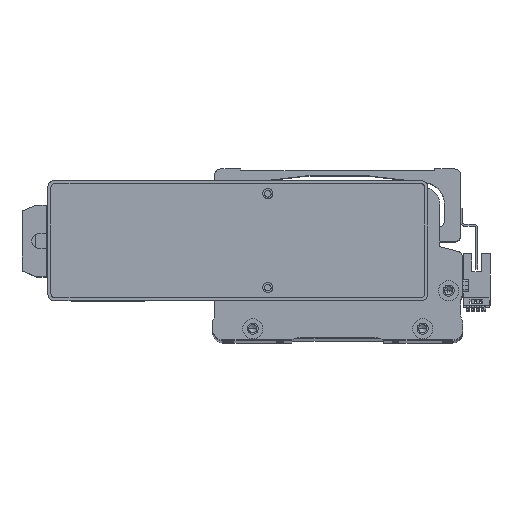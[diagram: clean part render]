
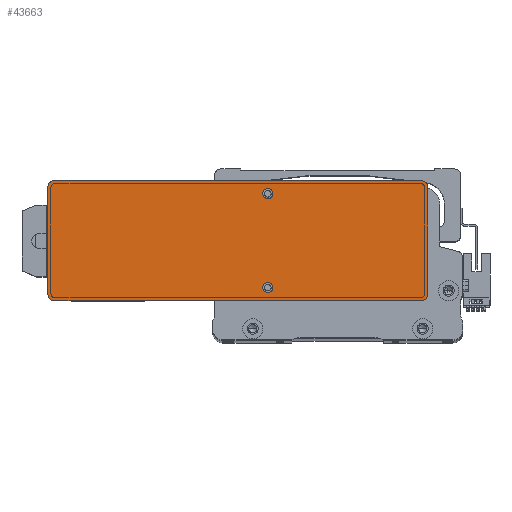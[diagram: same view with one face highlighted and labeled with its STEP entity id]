
A CAD part, top view. The second image highlights one B-rep face of the part: STEP entity #43663.
In plain terms, the highlighted planar face has unit normal (0, 0, 1) as drawn and (0, 0, -1) by its records, which use the part's own axes.
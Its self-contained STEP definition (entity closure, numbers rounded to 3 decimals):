
#1423 = DIRECTION ( 'NONE',  ( 0., 0., 1. ) ) ;
#1839 = DIRECTION ( 'NONE',  ( 0., 0., -1. ) ) ;
#4832 = CARTESIAN_POINT ( 'NONE',  ( -15., -23.5, 0. ) ) ;
#4980 = EDGE_CURVE ( 'NONE', #57262, #43032, #63337, .T. ) ;
#6400 = AXIS2_PLACEMENT_3D ( 'NONE', #38550, #1839, #44687 ) ;
#6965 = AXIS2_PLACEMENT_3D ( 'NONE', #31980, #1423, #44291 ) ;
#7436 = CARTESIAN_POINT ( 'NONE',  ( 92., 27., 0. ) ) ;
#8709 = DIRECTION ( 'NONE',  ( 0., 0., -1. ) ) ;
#8949 = CIRCLE ( 'NONE', #6400, 2.5 ) ;
#8986 = EDGE_LOOP ( 'NONE', ( #48792, #58859 ) ) ;
#9885 = ORIENTED_EDGE ( 'NONE', *, *, #28539, .F. ) ;
#11009 = DIRECTION ( 'NONE',  ( -1., 0., 0. ) ) ;
#11874 = ORIENTED_EDGE ( 'NONE', *, *, #66200, .F. ) ;
#12229 = DIRECTION ( 'NONE',  ( 0., 0., -1. ) ) ;
#12276 = CARTESIAN_POINT ( 'NONE',  ( -12.5, 23.5, 0. ) ) ;
#13154 = VERTEX_POINT ( 'NONE', #41703 ) ;
#13635 = DIRECTION ( 'NONE',  ( 1., 0., 0. ) ) ;
#14962 = EDGE_CURVE ( 'NONE', #50906, #72676, #8949, .T. ) ;
#16763 = VECTOR ( 'NONE', #60028, 1000. ) ;
#17820 = CARTESIAN_POINT ( 'NONE',  ( -95., -30., 0. ) ) ;
#19746 = CARTESIAN_POINT ( 'NONE',  ( 92., -27., 0. ) ) ;
#20493 = CARTESIAN_POINT ( 'NONE',  ( -17.5, -23.5, 0. ) ) ;
#20923 = CARTESIAN_POINT ( 'NONE',  ( -92., -27., 0. ) ) ;
#21642 = FACE_BOUND ( 'NONE', #23380, .T. ) ;
#22572 = CARTESIAN_POINT ( 'NONE',  ( -15., 23.5, 0. ) ) ;
#23195 = ORIENTED_EDGE ( 'NONE', *, *, #4980, .T. ) ;
#23380 = EDGE_LOOP ( 'NONE', ( #77000, #9885 ) ) ;
#23465 = CARTESIAN_POINT ( 'NONE',  ( 95., -30., 0. ) ) ;
#24868 = CARTESIAN_POINT ( 'NONE',  ( -95., -27., 0. ) ) ;
#25918 = DIRECTION ( 'NONE',  ( 1., 0., 0. ) ) ;
#25922 = CARTESIAN_POINT ( 'NONE',  ( -92., -30., 0. ) ) ;
#26672 = DIRECTION ( 'NONE',  ( -1., 0., 0. ) ) ;
#26843 = CARTESIAN_POINT ( 'NONE',  ( 95., -30., 0. ) ) ;
#27047 = DIRECTION ( 'NONE',  ( 1., 0., 0. ) ) ;
#28539 = EDGE_CURVE ( 'NONE', #76569, #30718, #77355, .T. ) ;
#28711 = CARTESIAN_POINT ( 'NONE',  ( 95., -27., 0. ) ) ;
#28735 = DIRECTION ( 'NONE',  ( -1., 0., 0. ) ) ;
#29896 = ORIENTED_EDGE ( 'NONE', *, *, #37116, .F. ) ;
#30135 = EDGE_LOOP ( 'NONE', ( #29896, #58878, #11874, #44480, #56556, #23195, #63937, #74729 ) ) ;
#30718 = VERTEX_POINT ( 'NONE', #57088 ) ;
#31966 = CIRCLE ( 'NONE', #62013, 2.5 ) ;
#31980 = CARTESIAN_POINT ( 'NONE',  ( 0., 0., 0. ) ) ;
#33518 = CIRCLE ( 'NONE', #40277, 2.5 ) ;
#34972 = LINE ( 'NONE', #17820, #61720 ) ;
#35304 = VERTEX_POINT ( 'NONE', #62650 ) ;
#36482 = VERTEX_POINT ( 'NONE', #25922 ) ;
#37116 = EDGE_CURVE ( 'NONE', #77628, #35304, #75055, .T. ) ;
#38550 = CARTESIAN_POINT ( 'NONE',  ( -15., -23.5, 0. ) ) ;
#39499 = CARTESIAN_POINT ( 'NONE',  ( -92., 30., 0. ) ) ;
#40071 = EDGE_CURVE ( 'NONE', #30718, #76569, #31966, .T. ) ;
#40277 = AXIS2_PLACEMENT_3D ( 'NONE', #4832, #47664, #11009 ) ;
#41104 = CIRCLE ( 'NONE', #55690, 3. ) ;
#41703 = CARTESIAN_POINT ( 'NONE',  ( 92., 30., 0. ) ) ;
#42503 = CARTESIAN_POINT ( 'NONE',  ( -12.5, -23.5, 0. ) ) ;
#43032 = VERTEX_POINT ( 'NONE', #39499 ) ;
#43399 = CIRCLE ( 'NONE', #76508, 3. ) ;
#43663 = ADVANCED_FACE ( 'NONE', ( #21642, #54118, #68460 ), #62412, .F. ) ;
#44291 = DIRECTION ( 'NONE',  ( 1., 0., 0. ) ) ;
#44480 = ORIENTED_EDGE ( 'NONE', *, *, #52221, .T. ) ;
#44495 = VECTOR ( 'NONE', #51416, 1000. ) ;
#44687 = DIRECTION ( 'NONE',  ( -1., 0., 0. ) ) ;
#45378 = CARTESIAN_POINT ( 'NONE',  ( -92., 27., 0. ) ) ;
#46600 = AXIS2_PLACEMENT_3D ( 'NONE', #20923, #63625, #27047 ) ;
#46686 = LINE ( 'NONE', #69408, #79160 ) ;
#47664 = DIRECTION ( 'NONE',  ( 0., 0., -1. ) ) ;
#48792 = ORIENTED_EDGE ( 'NONE', *, *, #61481, .F. ) ;
#48904 = CARTESIAN_POINT ( 'NONE',  ( -15., 23.5, 0. ) ) ;
#50232 = DIRECTION ( 'NONE',  ( 0., 0., -1. ) ) ;
#50906 = VERTEX_POINT ( 'NONE', #42503 ) ;
#51093 = EDGE_CURVE ( 'NONE', #77628, #59030, #41104, .T. ) ;
#51195 = LINE ( 'NONE', #23465, #16763 ) ;
#51416 = DIRECTION ( 'NONE',  ( 0., 1., 0. ) ) ;
#51474 = DIRECTION ( 'NONE',  ( 1., 0., 0. ) ) ;
#52221 = EDGE_CURVE ( 'NONE', #36482, #76644, #65762, .T. ) ;
#53872 = EDGE_CURVE ( 'NONE', #13154, #43032, #46686, .T. ) ;
#54118 = FACE_OUTER_BOUND ( 'NONE', #30135, .T. ) ;
#54989 = DIRECTION ( 'NONE',  ( -1., 0., 0. ) ) ;
#55690 = AXIS2_PLACEMENT_3D ( 'NONE', #19746, #62487, #25918 ) ;
#56556 = ORIENTED_EDGE ( 'NONE', *, *, #66236, .F. ) ;
#57088 = CARTESIAN_POINT ( 'NONE',  ( -17.5, 23.5, 0. ) ) ;
#57262 = VERTEX_POINT ( 'NONE', #69081 ) ;
#58859 = ORIENTED_EDGE ( 'NONE', *, *, #14962, .F. ) ;
#58878 = ORIENTED_EDGE ( 'NONE', *, *, #51093, .T. ) ;
#59030 = VERTEX_POINT ( 'NONE', #70401 ) ;
#60028 = DIRECTION ( 'NONE',  ( 1., 0., 0. ) ) ;
#60561 = DIRECTION ( 'NONE',  ( 0., -1., 0. ) ) ;
#61481 = EDGE_CURVE ( 'NONE', #72676, #50906, #33518, .T. ) ;
#61720 = VECTOR ( 'NONE', #60561, 1000. ) ;
#62013 = AXIS2_PLACEMENT_3D ( 'NONE', #22572, #65302, #28735 ) ;
#62412 = PLANE ( 'NONE',  #6965 ) ;
#62487 = DIRECTION ( 'NONE',  ( 0., 0., -1. ) ) ;
#62650 = CARTESIAN_POINT ( 'NONE',  ( 95., 27., 0. ) ) ;
#63337 = CIRCLE ( 'NONE', #76144, 3. ) ;
#63625 = DIRECTION ( 'NONE',  ( 0., 0., -1. ) ) ;
#63937 = ORIENTED_EDGE ( 'NONE', *, *, #53872, .F. ) ;
#64243 = AXIS2_PLACEMENT_3D ( 'NONE', #48904, #12229, #54989 ) ;
#65302 = DIRECTION ( 'NONE',  ( 0., 0., -1. ) ) ;
#65762 = CIRCLE ( 'NONE', #46600, 3. ) ;
#66200 = EDGE_CURVE ( 'NONE', #36482, #59030, #51195, .T. ) ;
#66236 = EDGE_CURVE ( 'NONE', #57262, #76644, #34972, .T. ) ;
#67927 = EDGE_CURVE ( 'NONE', #13154, #35304, #43399, .T. ) ;
#68460 = FACE_BOUND ( 'NONE', #8986, .T. ) ;
#69081 = CARTESIAN_POINT ( 'NONE',  ( -95., 27., 0. ) ) ;
#69408 = CARTESIAN_POINT ( 'NONE',  ( 95., 30., 0. ) ) ;
#70401 = CARTESIAN_POINT ( 'NONE',  ( 92., -30., 0. ) ) ;
#72676 = VERTEX_POINT ( 'NONE', #20493 ) ;
#74729 = ORIENTED_EDGE ( 'NONE', *, *, #67927, .T. ) ;
#75055 = LINE ( 'NONE', #26843, #44495 ) ;
#76144 = AXIS2_PLACEMENT_3D ( 'NONE', #45378, #8709, #51474 ) ;
#76508 = AXIS2_PLACEMENT_3D ( 'NONE', #7436, #50232, #13635 ) ;
#76569 = VERTEX_POINT ( 'NONE', #12276 ) ;
#76644 = VERTEX_POINT ( 'NONE', #24868 ) ;
#77000 = ORIENTED_EDGE ( 'NONE', *, *, #40071, .F. ) ;
#77355 = CIRCLE ( 'NONE', #64243, 2.5 ) ;
#77628 = VERTEX_POINT ( 'NONE', #28711 ) ;
#79160 = VECTOR ( 'NONE', #26672, 1000. ) ;
